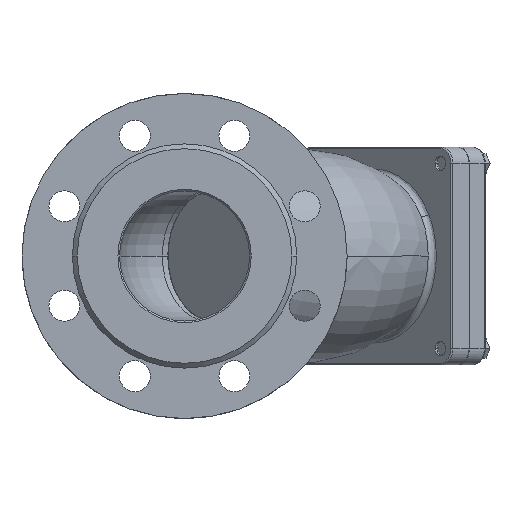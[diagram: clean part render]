
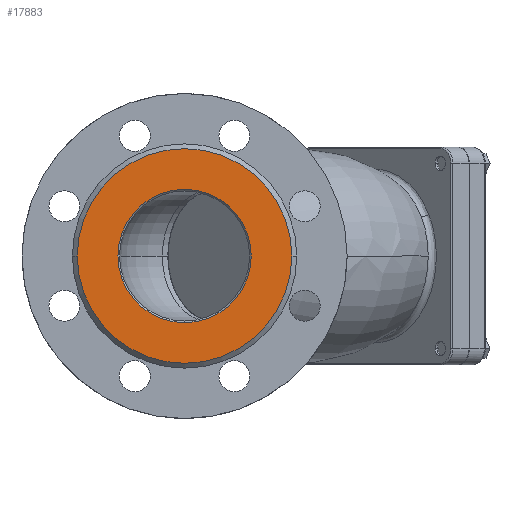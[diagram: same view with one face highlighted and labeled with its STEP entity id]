
A CAD part, left-side view. The second image highlights one B-rep face of the part: STEP entity #17883.
In plain terms, the highlighted planar face has unit normal (-1, 0, 0).
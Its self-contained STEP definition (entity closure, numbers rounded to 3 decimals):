
#721 = CIRCLE ( 'NONE', #10312, 66. ) ;
#3887 = AXIS2_PLACEMENT_3D ( 'NONE', #4003, #18266, #6052 ) ;
#4003 = CARTESIAN_POINT ( 'NONE',  ( 0., 0., 0. ) ) ;
#4070 = AXIS2_PLACEMENT_3D ( 'NONE', #19523, #7406, #21458 ) ;
#4855 = CARTESIAN_POINT ( 'NONE',  ( 0., 0., 0. ) ) ;
#6052 = DIRECTION ( 'NONE',  ( 0., 0., 1. ) ) ;
#6305 = CARTESIAN_POINT ( 'NONE',  ( 0., 0., 0. ) ) ;
#6746 = EDGE_CURVE ( 'NONE', #21555, #16955, #16813, .T. ) ;
#6900 = DIRECTION ( 'NONE',  ( 0., 1., 0. ) ) ;
#7406 = DIRECTION ( 'NONE',  ( -1., 0., 0. ) ) ;
#8371 = DIRECTION ( 'NONE',  ( 0., 1., 0. ) ) ;
#9594 = AXIS2_PLACEMENT_3D ( 'NONE', #6305, #20393, #8371 ) ;
#9772 = PLANE ( 'NONE',  #13379 ) ;
#9857 = VERTEX_POINT ( 'NONE', #17920 ) ;
#10312 = AXIS2_PLACEMENT_3D ( 'NONE', #4855, #19048, #6900 ) ;
#11297 = EDGE_CURVE ( 'NONE', #11515, #9857, #24206, .T. ) ;
#11515 = VERTEX_POINT ( 'NONE', #22674 ) ;
#11756 = CARTESIAN_POINT ( 'NONE',  ( 0., 0., -41. ) ) ;
#11864 = DIRECTION ( 'NONE',  ( 1., 0., 0. ) ) ;
#11990 = EDGE_CURVE ( 'NONE', #9857, #11515, #721, .T. ) ;
#13379 = AXIS2_PLACEMENT_3D ( 'NONE', #25451, #11864, #25533 ) ;
#14009 = FACE_BOUND ( 'NONE', #20275, .T. ) ;
#15149 = ORIENTED_EDGE ( 'NONE', *, *, #6746, .F. ) ;
#15904 = CIRCLE ( 'NONE', #4070, 41. ) ;
#15976 = ORIENTED_EDGE ( 'NONE', *, *, #11297, .F. ) ;
#16813 = CIRCLE ( 'NONE', #3887, 41. ) ;
#16955 = VERTEX_POINT ( 'NONE', #11756 ) ;
#17883 = ADVANCED_FACE ( 'NONE', ( #24314, #14009 ), #9772, .F. ) ;
#17920 = CARTESIAN_POINT ( 'NONE',  ( 0., -66., 0. ) ) ;
#18266 = DIRECTION ( 'NONE',  ( -1., 0., 0. ) ) ;
#19048 = DIRECTION ( 'NONE',  ( 1., 0., 0. ) ) ;
#19080 = EDGE_LOOP ( 'NONE', ( #15976, #21676 ) ) ;
#19523 = CARTESIAN_POINT ( 'NONE',  ( 0., 0., 0. ) ) ;
#20275 = EDGE_LOOP ( 'NONE', ( #15149, #23814 ) ) ;
#20393 = DIRECTION ( 'NONE',  ( 1., 0., 0. ) ) ;
#21188 = EDGE_CURVE ( 'NONE', #16955, #21555, #15904, .T. ) ;
#21458 = DIRECTION ( 'NONE',  ( 0., 0., 1. ) ) ;
#21555 = VERTEX_POINT ( 'NONE', #23337 ) ;
#21676 = ORIENTED_EDGE ( 'NONE', *, *, #11990, .F. ) ;
#22674 = CARTESIAN_POINT ( 'NONE',  ( 0., 66., 0. ) ) ;
#23337 = CARTESIAN_POINT ( 'NONE',  ( 0., 0., 41. ) ) ;
#23814 = ORIENTED_EDGE ( 'NONE', *, *, #21188, .F. ) ;
#24206 = CIRCLE ( 'NONE', #9594, 66. ) ;
#24314 = FACE_OUTER_BOUND ( 'NONE', #19080, .T. ) ;
#25451 = CARTESIAN_POINT ( 'NONE',  ( 0., 0., 0. ) ) ;
#25533 = DIRECTION ( 'NONE',  ( 0., 0., -1. ) ) ;
